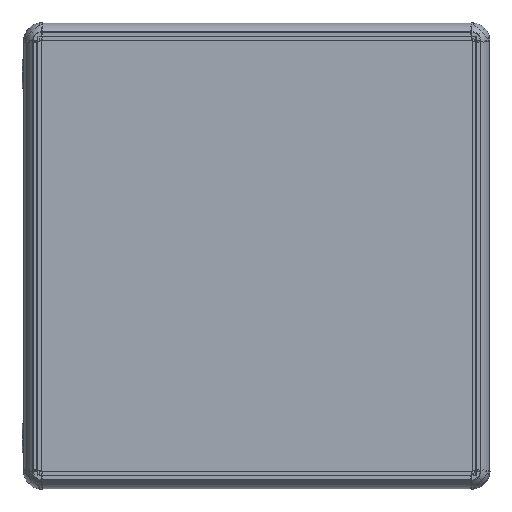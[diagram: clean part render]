
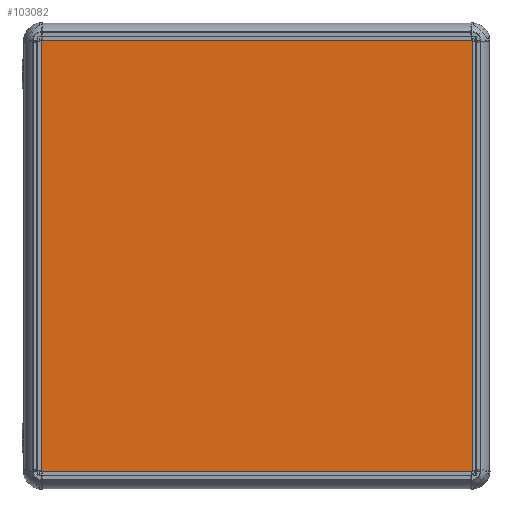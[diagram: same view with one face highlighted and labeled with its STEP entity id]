
A CAD part, top view. The second image highlights one B-rep face of the part: STEP entity #103082.
In plain terms, the highlighted planar face has unit normal (0, 0, 1).
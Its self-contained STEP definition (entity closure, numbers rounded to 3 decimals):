
#724 = VERTEX_POINT ( 'NONE', #145372 ) ;
#732 = PLANE ( 'NONE',  #104533 ) ;
#1500 = DIRECTION ( 'NONE',  ( 0., 0., 1. ) ) ;
#7866 = VERTEX_POINT ( 'NONE', #53517 ) ;
#9381 = CARTESIAN_POINT ( 'NONE',  ( -300., 300., 2. ) ) ;
#10082 = VERTEX_POINT ( 'NONE', #109949 ) ;
#12554 = FACE_OUTER_BOUND ( 'NONE', #150727, .T. ) ;
#14026 = LINE ( 'NONE', #99182, #123090 ) ;
#29514 = CARTESIAN_POINT ( 'NONE',  ( -300., 300., 2. ) ) ;
#30923 = CARTESIAN_POINT ( 'NONE',  ( 300., 300., 2. ) ) ;
#34578 = LINE ( 'NONE', #9381, #80784 ) ;
#39757 = LINE ( 'NONE', #29514, #123492 ) ;
#43409 = LINE ( 'NONE', #88549, #135826 ) ;
#52420 = EDGE_CURVE ( 'NONE', #724, #86955, #14026, .T. ) ;
#53133 = DIRECTION ( 'NONE',  ( 0., -1., 0. ) ) ;
#53517 = CARTESIAN_POINT ( 'NONE',  ( -300., 300., 2. ) ) ;
#70080 = CARTESIAN_POINT ( 'NONE',  ( 0., 0., 2. ) ) ;
#74017 = DIRECTION ( 'NONE',  ( 1., 0., 0. ) ) ;
#80784 = VECTOR ( 'NONE', #140531, 1000. ) ;
#83491 = ORIENTED_EDGE ( 'NONE', *, *, #98574, .T. ) ;
#86955 = VERTEX_POINT ( 'NONE', #30923 ) ;
#88549 = CARTESIAN_POINT ( 'NONE',  ( -300., -300., 2. ) ) ;
#90450 = ORIENTED_EDGE ( 'NONE', *, *, #120490, .T. ) ;
#91787 = ORIENTED_EDGE ( 'NONE', *, *, #116366, .T. ) ;
#98574 = EDGE_CURVE ( 'NONE', #10082, #724, #43409, .T. ) ;
#99182 = CARTESIAN_POINT ( 'NONE',  ( 300., 300., 2. ) ) ;
#103082 = ADVANCED_FACE ( 'NONE', ( #12554 ), #732, .T. ) ;
#104533 = AXIS2_PLACEMENT_3D ( 'NONE', #70080, #1500, #74017 ) ;
#109949 = CARTESIAN_POINT ( 'NONE',  ( -300., -300., 2. ) ) ;
#110384 = DIRECTION ( 'NONE',  ( 0., 1., 0. ) ) ;
#116366 = EDGE_CURVE ( 'NONE', #7866, #10082, #39757, .T. ) ;
#120490 = EDGE_CURVE ( 'NONE', #86955, #7866, #34578, .T. ) ;
#123090 = VECTOR ( 'NONE', #110384, 1000. ) ;
#123492 = VECTOR ( 'NONE', #53133, 1000. ) ;
#124178 = DIRECTION ( 'NONE',  ( 1., 0., 0. ) ) ;
#135826 = VECTOR ( 'NONE', #124178, 1000. ) ;
#140531 = DIRECTION ( 'NONE',  ( -1., 0., 0. ) ) ;
#145028 = ORIENTED_EDGE ( 'NONE', *, *, #52420, .T. ) ;
#145372 = CARTESIAN_POINT ( 'NONE',  ( 300., -300., 2. ) ) ;
#150727 = EDGE_LOOP ( 'NONE', ( #145028, #90450, #91787, #83491 ) ) ;
